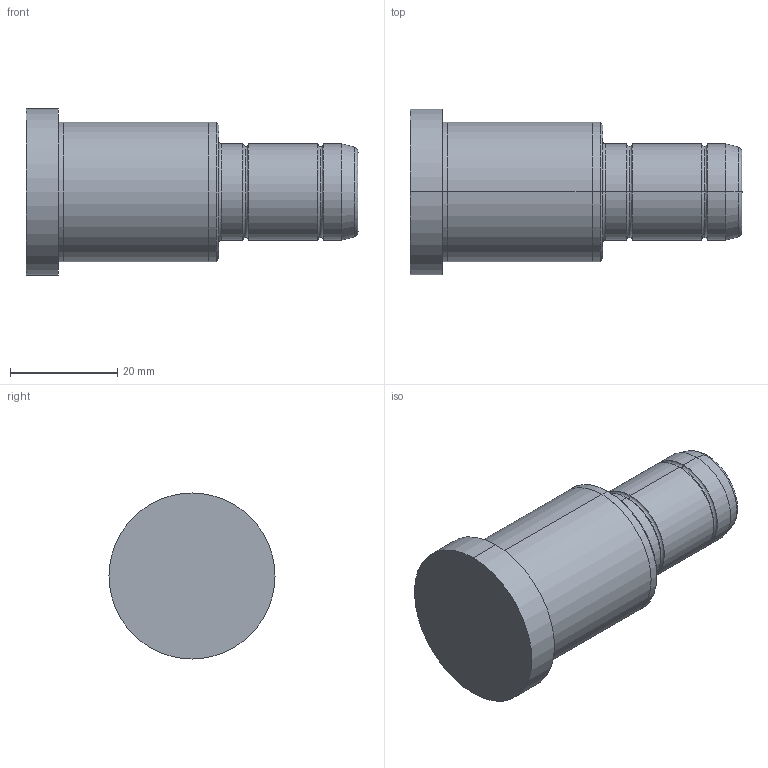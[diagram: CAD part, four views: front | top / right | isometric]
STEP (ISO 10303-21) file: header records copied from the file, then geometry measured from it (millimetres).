
FILE_DESCRIPTION( ( 'STEP AP203' ), '1' );
FILE_NAME( 'C:/Projects/D02 - 18x36x26.step', '2003-01-04T13:24:01', ( ' ' ), ( ' ' ), 'XStep 1.0', ' ', ' ' );
FILE_SCHEMA( ( 'CONFIG_CONTROL_DESIGN' ) );
Length unit declared in the file: metre
Products named in the file (1): 1
Bounding box: 62 x 31 x 31 mm (x, y, z)
Volume: 26972.5 mm3; surface area: 5982.7 mm2
Topology: 1 solids, 1 shells, 36 faces, 70 edges, 40 vertices
Faces by surface type: bspline 18, revolution 18
Entity records: 1127 total; most frequent: CARTESIAN_POINT 417, ORIENTED_EDGE 140, DIRECTION 118, EDGE_CURVE 70, AXIS2_PLACEMENT_3D 41, EDGE_LOOP 40, VERTEX_POINT 40, CIRCLE 40
